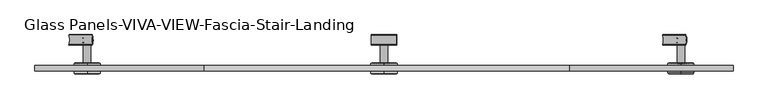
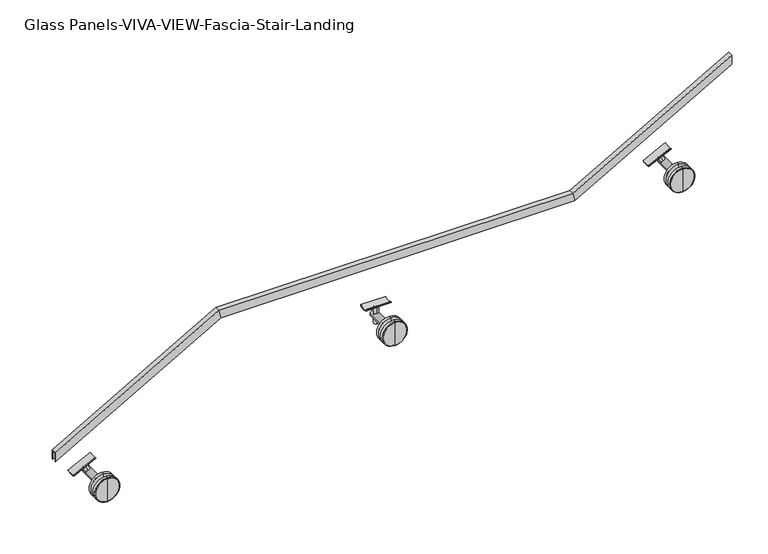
"""IFC4 building model written with IfcOpenShell, lengths in millimetres: railing geometry, Glass Panels-VIVA-VIEW-Fascia-Stair-Landing."""

from ifc_helpers import new_model, si_unit, point, frame, frame_2d, origin, place, context, project, spatial, polyline, circle_curve, trimmed, segment, composite_curve, outline, extrude, faceted_brep, source, transform, mapped, element, save
from ifc_brep_helpers import plane_surface, cylinder_surface, revolved_surface, advanced_brep


def glass_panels_viva_view_fascia_stair_landing_6cf817cf(model_context):
    return source(origin(), model_context, "Body", "SolidModel", [
        faceted_brep([(34673.4016433, -2588.6094585, 2988.1285714), (34673.4016433, -2588.6094585, 2958.8740933), (34673.4016433, -2590.1969585, 2958.8740933), (34673.4016433, -2590.1969585, 2986.3001665), (34673.4016433, -2602.8969585, 2986.3001665), (34673.4016433, -2602.8969585, 2958.8740933), (34673.4016433, -2604.4844585, 2958.8740933), (34673.4016433, -2604.4844585, 2988.1285714), (35165.5266433, -2588.6094585, 3269.3428571), (35172.27198, -2588.6094585, 3243.9428571), (35172.27198, -2590.1969585, 3243.9428571), (35165.9482268, -2590.1969585, 3267.7553571), (35165.9482268, -2602.8969585, 3267.7553571), (35172.27198, -2602.8969585, 3243.9428571), (35172.27198, -2604.4844585, 3243.9428571), (35165.5266433, -2604.4844585, 3269.3428571), (36232.3266433, -2588.6094585, 3269.3428571), (36239.07198, -2588.6094585, 3243.9428571), (36239.07198, -2590.1969585, 3243.9428571), (36232.7482268, -2590.1969585, 3267.7553571), (36232.7482268, -2602.8969585, 3267.7553571), (36239.07198, -2602.8969585, 3243.9428571), (36239.07198, -2604.4844585, 3243.9428571), (36232.3266433, -2604.4844585, 3269.3428571), (36710.9578933, -2588.6094585, 3542.8464286), (36710.9578933, -2604.4844585, 3542.8464286), (36710.9578933, -2604.4844585, 3513.5919505), (36710.9578933, -2602.8969585, 3513.5919505), (36710.9578933, -2602.8969585, 3541.0180237), (36710.9578933, -2590.1969585, 3541.0180237), (36710.9578933, -2590.1969585, 3513.5919505), (36710.9578933, -2588.6094585, 3513.5919505)], [[[0, 1, 2, 3, 4, 5, 6, 7]], [[1, 0, 8, 9]], [[2, 1, 9, 10]], [[3, 2, 10, 11]], [[4, 3, 11, 12]], [[5, 4, 12, 13]], [[6, 5, 13, 14]], [[7, 6, 14, 15]], [[0, 7, 15, 8]], [[9, 8, 16, 17]], [[10, 9, 17, 18]], [[11, 10, 18, 19]], [[12, 11, 19, 20]], [[13, 12, 20, 21]], [[14, 13, 21, 22]], [[15, 14, 22, 23]], [[8, 15, 23, 16]], [[24, 25, 26, 27, 28, 29, 30, 31]], [[17, 16, 24, 31]], [[18, 17, 31, 30]], [[19, 18, 30, 29]], [[20, 19, 29, 28]], [[21, 20, 28, 27]], [[22, 21, 27, 26]], [[23, 22, 26, 25]], [[16, 23, 25, 24]]]),
        extrude(outline(composite_curve([segment(trimmed(circle_curve(frame_2d((35692.1797683, -2514.3270975)), 7.0), [point((35692.1797683, -2507.3270975))], [point((35692.1797683, -2521.3270975))], False, "CARTESIAN"), True, "CONTINUOUS"), segment(trimmed(circle_curve(frame_2d((35692.1797683, -2514.3270975)), 7.0), [point((35692.1797683, -2521.3270975))], [point((35692.1797683, -2507.3270975))], False, "CARTESIAN"), True, "CONTINUOUS")], self_intersect=False)), frame((0.0, 0.0, 2992.4664418), z_axis=(0.0, 0.0, 1.0), x_axis=(1.0, 0.0, 0.0)), (0.0, 0.0, 1.0), 52.8378352),
        extrude(outline(composite_curve([segment(trimmed(circle_curve(frame_2d((18.6575251, 0.3952033)), 19.05), [point((5.2466064, 13.9247916))], [point((5.2466064, -13.1343849))], True, "CARTESIAN"), True, "CONTINUOUS"), segment(polyline([(5.2466064, -13.1343849), (4.2292193, -14.1607745)]), True, "CONTINUOUS"), segment(trimmed(circle_curve(frame_2d((3.1638974, -13.1047967)), 1.5), [point((4.2292193, -14.1607745))], [point((2.0329757, -14.0901981))], False, "CARTESIAN"), True, "CONTINUOUS"), segment(trimmed(circle_curve(frame_2d((18.6575251, 0.3952033)), 22.05), [point((2.0329757, -14.0901981))], [point((2.0329757, 14.8806048))], False, "CARTESIAN"), True, "CONTINUOUS"), segment(trimmed(circle_curve(frame_2d((3.1638974, 13.8952033)), 1.5), [point((2.0329757, 14.8806048))], [point((4.2292193, 14.9511812))], False, "CARTESIAN"), True, "CONTINUOUS"), segment(polyline([(4.2292193, 14.9511812), (5.2466064, 13.9247916)]), True, "CONTINUOUS")], self_intersect=False)), frame((35654.9926572, -2512.5998652, 3048.6249714), z_axis=(0.9999988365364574, 0.0, 0.0015254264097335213), x_axis=(-0.0015254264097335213, 0.0, 0.9999988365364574)), (0.0, 0.0, 1.0), 74.5229187),
        extrude(outline(composite_curve([segment(trimmed(circle_curve(frame_2d((3015.3428571, 35692.1797683)), 11.0132813), [point((3015.3428571, 35703.1930495))], [point((3015.3428571, 35681.166487))], False, "CARTESIAN"), True, "CONTINUOUS"), segment(trimmed(circle_curve(frame_2d((3015.3428571, 35692.1797683)), 11.0132813), [point((3015.3428571, 35681.166487))], [point((3015.3428571, 35703.1930495))], False, "CARTESIAN"), True, "CONTINUOUS")], self_intersect=False)), frame((0.0, -2580.5727397, 0.0), z_axis=(0.0, 1.0, 0.0), x_axis=(0.0, 0.0, 1.0)), (0.0, 0.0, 1.0), 79.2757812),
        advanced_brep(
        [(35692.1797683, -2612.5211772, 3015.3428571), (35692.1797683, -2612.5211772, 3051.4584821), (35692.1797683, -2612.5211772, 2979.2272321), (35692.1797683, -2580.5727397, 2979.2272321), (35692.1797683, -2580.5727397, 3051.4584821), (35692.1797683, -2580.5727397, 3015.3428571), (35692.1797683, -2582.5571147, 2977.2428571), (35692.1797683, -2582.5571147, 3053.4428571), (35692.1797683, -2590.1969585, 2977.2428571), (35692.1797683, -2590.1969585, 3053.4428571), (35692.1797683, -2590.1969585, 3002.6428571), (35692.1797683, -2590.1969585, 3028.0428571), (35692.1797683, -2602.8969585, 3002.6428571), (35692.1797683, -2602.8969585, 3028.0428571), (35692.1797683, -2602.8969585, 2977.2428571), (35692.1797683, -2602.8969585, 3053.4428571), (35692.1797683, -2610.5368022, 2977.2428571), (35692.1797683, -2610.5368022, 3053.4428571)],
        [
            (0, 1),
            (1, 2, circle_curve(frame((35692.1797683, -2612.5211772, 3015.3428571), z_axis=(0.0, -1.0, 0.0), x_axis=(0.0, 0.0, 1.0)), 36.115625)),
            (2, 0),
            (2, 1, circle_curve(frame((35692.1797683, -2612.5211772, 3015.3428571), z_axis=(0.0, -1.0, 0.0), x_axis=(0.0, 0.0, 1.0)), 36.115625)),
            (3, 4, circle_curve(frame((35692.1797683, -2580.5727397, 3015.3428571), z_axis=(0.0, 1.0, 0.0), x_axis=(0.0, 0.0, 1.0)), 36.115625)),
            (4, 5),
            (5, 3),
            (4, 3, circle_curve(frame((35692.1797683, -2580.5727397, 3015.3428571), z_axis=(0.0, 1.0, 0.0), x_axis=(0.0, 0.0, 1.0)), 36.115625)),
            (6, 7, circle_curve(frame((35692.1797683, -2582.5571147, 3015.3428571), z_axis=(0.0, 1.0, 0.0), x_axis=(0.0, 0.0, 1.0)), 38.1)),
            (7, 4),
            (3, 6),
            (7, 6, circle_curve(frame((35692.1797683, -2582.5571147, 3015.3428571), z_axis=(0.0, 1.0, 0.0), x_axis=(0.0, 0.0, 1.0)), 38.1)),
            (8, 9, circle_curve(frame((35692.1797683, -2590.1969585, 3015.3428571), z_axis=(0.0, 1.0, 0.0), x_axis=(0.0, 0.0, 1.0)), 38.1)),
            (9, 7),
            (6, 8),
            (9, 8, circle_curve(frame((35692.1797683, -2590.1969585, 3015.3428571), z_axis=(0.0, 1.0, 0.0), x_axis=(0.0, 0.0, 1.0)), 38.1)),
            (10, 11, circle_curve(frame((35692.1797683, -2590.1969585, 3015.3428571), z_axis=(0.0, 1.0, 0.0), x_axis=(0.0, 0.0, 1.0)), 12.7)),
            (11, 9),
            (8, 10),
            (11, 10, circle_curve(frame((35692.1797683, -2590.1969585, 3015.3428571), z_axis=(0.0, 1.0, 0.0), x_axis=(0.0, 0.0, 1.0)), 12.7)),
            (12, 13, circle_curve(frame((35692.1797683, -2602.8969585, 3015.3428571), z_axis=(0.0, 1.0, 0.0), x_axis=(0.0, 0.0, 1.0)), 12.7)),
            (13, 11),
            (10, 12),
            (13, 12, circle_curve(frame((35692.1797683, -2602.8969585, 3015.3428571), z_axis=(0.0, 1.0, 0.0), x_axis=(0.0, 0.0, 1.0)), 12.7)),
            (14, 15, circle_curve(frame((35692.1797683, -2602.8969585, 3015.3428571), z_axis=(0.0, 1.0, 0.0), x_axis=(0.0, 0.0, 1.0)), 38.1)),
            (15, 13),
            (12, 14),
            (15, 14, circle_curve(frame((35692.1797683, -2602.8969585, 3015.3428571), z_axis=(0.0, 1.0, 0.0), x_axis=(0.0, 0.0, 1.0)), 38.1)),
            (16, 17, circle_curve(frame((35692.1797683, -2610.5368022, 3015.3428571), z_axis=(0.0, 1.0, 0.0), x_axis=(0.0, 0.0, 1.0)), 38.1)),
            (17, 15),
            (14, 16),
            (17, 16, circle_curve(frame((35692.1797683, -2610.5368022, 3015.3428571), z_axis=(0.0, 1.0, 0.0), x_axis=(0.0, 0.0, 1.0)), 38.1)),
            (1, 17),
            (16, 2),
        ],
        [
            plane_surface(frame((35692.1797683, -2612.5211772, 3015.3428571), z_axis=(0.0, -1.0, 0.0), x_axis=(0.0, 0.0, 1.0))),
            plane_surface(frame((35692.1797683, -2580.5727397, 3015.3428571), z_axis=(0.0, 1.0, 0.0), x_axis=(0.0, 0.0, 1.0))),
            revolved_surface(polyline([(35692.1797683, -2580.5727397, 3051.4584821), (35692.1797683, -2582.5571147, 3053.4428571)]), (35692.1797683, -2648.6368022, 3015.3428571), (0.0, -1.0, 0.0)),
            cylinder_surface(frame((35692.1797683, -2648.6368022, 3015.3428571), z_axis=(0.0, -1.0, 0.0), x_axis=(0.0, 0.0, 1.0)), 38.1),
            plane_surface(frame((35692.1797683, -2590.1969585, 3015.3428571), z_axis=(0.0, -1.0, 0.0), x_axis=(0.0, 0.0, 1.0))),
            cylinder_surface(frame((35692.1797683, -2648.6368022, 3015.3428571), z_axis=(0.0, -1.0, 0.0), x_axis=(0.0, 0.0, 1.0)), 12.7),
            plane_surface(frame((35692.1797683, -2602.8969585, 3015.3428571), z_axis=(0.0, 1.0, 0.0), x_axis=(0.0, 0.0, 1.0))),
            revolved_surface(polyline([(35692.1797683, -2610.5368022, 3053.4428571), (35692.1797683, -2612.5211772, 3051.4584821)]), (35692.1797683, -2648.6368022, 3015.3428571), (0.0, -1.0, 0.0)),
        ],
        [
            (0, [[1, 2, 3]]),
            (0, [[-3, 4, -1]]),
            (1, [[5, 6, 7]]),
            (1, [[8, -7, -6]]),
            (2, [[9, 10, -5, 11]]),
            (2, [[12, -11, -8, -10]]),
            (3, [[13, 14, -9, 15]]),
            (3, [[16, -15, -12, -14]]),
            (4, [[17, 18, -13, 19]]),
            (4, [[20, -19, -16, -18]]),
            (5, [[21, 22, -17, 23]]),
            (5, [[24, -23, -20, -22]]),
            (6, [[25, 26, -21, 27]]),
            (6, [[28, -27, -24, -26]]),
            (3, [[29, 30, -25, 31]]),
            (3, [[32, -31, -28, -30]]),
            (7, [[-2, 33, -29, 34]]),
            (7, [[-4, -34, -32, -33]]),
        ],
    ),
        extrude(outline(composite_curve([segment(trimmed(circle_curve(frame_2d((0.0, -7.0)), 7.0), [point((0.0, -14.0))], [point((0.0, 0.0))], False, "CARTESIAN"), True, "CONTINUOUS"), segment(trimmed(circle_curve(frame_2d((0.0, -7.0)), 7.0), [point((0.0, 0.0))], [point((0.0, -14.0))], False, "CARTESIAN"), True, "CONTINUOUS")], self_intersect=False)), frame((36569.978817, -2521.3270975, 3178.8842989), z_axis=(-0.4481147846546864, 0.0, 0.8939760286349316), x_axis=(-0.8939760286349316, 0.0, -0.4481147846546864)), (0.0, 0.0, 1.0), 52.8378352),
        extrude(outline(composite_curve([segment(trimmed(circle_curve(frame_2d((18.6575251, 0.3952033)), 19.05), [point((5.2466063, 13.9247916))], [point((5.2466063, -13.1343849))], True, "CARTESIAN"), True, "CONTINUOUS"), segment(polyline([(5.2466063, -13.1343849), (4.2292193, -14.1607745)]), True, "CONTINUOUS"), segment(trimmed(circle_curve(frame_2d((3.1638975, -13.1047967)), 1.5), [point((4.2292193, -14.1607745))], [point((2.0329757, -14.0901981))], False, "CARTESIAN"), True, "CONTINUOUS"), segment(trimmed(circle_curve(frame_2d((18.6575251, 0.3952033)), 22.05), [point((2.0329757, -14.0901981))], [point((2.0329757, 14.8806048))], False, "CARTESIAN"), True, "CONTINUOUS"), segment(trimmed(circle_curve(frame_2d((3.1638975, 13.8952033)), 1.5), [point((2.0329757, 14.8806048))], [point((4.2292193, 14.9511812))], False, "CARTESIAN"), True, "CONTINUOUS"), segment(polyline([(4.2292193, 14.9511812), (5.2466063, 13.9247916)]), True, "CONTINUOUS")], self_intersect=False)), frame((36507.324839, -2512.5998652, 3210.5094028), z_axis=(0.8953503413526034, 0.0, 0.44536251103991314), x_axis=(-0.44536251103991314, 0.0, 0.8953503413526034)), (0.0, 0.0, 1.0), 74.5229187),
        extrude(outline(composite_curve([segment(trimmed(circle_curve(frame_2d((3201.7607143, 36558.5578933)), 11.0132813), [point((3201.7607143, 36569.5711745))], [point((3201.7607143, 36547.544612))], False, "CARTESIAN"), True, "CONTINUOUS"), segment(trimmed(circle_curve(frame_2d((3201.7607143, 36558.5578933)), 11.0132813), [point((3201.7607143, 36547.544612))], [point((3201.7607143, 36569.5711745))], False, "CARTESIAN"), True, "CONTINUOUS")], self_intersect=False)), frame((0.0, -2580.5727397, 0.0), z_axis=(0.0, 1.0, 0.0), x_axis=(0.0, 0.0, 1.0)), (0.0, 0.0, 1.0), 79.2757812),
        advanced_brep(
        [(36558.5578933, -2612.5211772, 3201.7607143), (36558.5578933, -2612.5211772, 3237.8763393), (36558.5578933, -2612.5211772, 3165.6450893), (36558.5578933, -2580.5727397, 3165.6450893), (36558.5578933, -2580.5727397, 3237.8763393), (36558.5578933, -2580.5727397, 3201.7607143), (36558.5578933, -2582.5571147, 3163.6607143), (36558.5578933, -2582.5571147, 3239.8607143), (36558.5578933, -2590.1969585, 3163.6607143), (36558.5578933, -2590.1969585, 3239.8607143), (36558.5578933, -2590.1969585, 3189.0607143), (36558.5578933, -2590.1969585, 3214.4607143), (36558.5578933, -2602.8969585, 3189.0607143), (36558.5578933, -2602.8969585, 3214.4607143), (36558.5578933, -2602.8969585, 3163.6607143), (36558.5578933, -2602.8969585, 3239.8607143), (36558.5578933, -2610.5368022, 3163.6607143), (36558.5578933, -2610.5368022, 3239.8607143)],
        [
            (0, 1),
            (1, 2, circle_curve(frame((36558.5578933, -2612.5211772, 3201.7607143), z_axis=(0.0, -1.0, 0.0), x_axis=(0.0, 0.0, 1.0)), 36.115625)),
            (2, 0),
            (2, 1, circle_curve(frame((36558.5578933, -2612.5211772, 3201.7607143), z_axis=(0.0, -1.0, 0.0), x_axis=(0.0, 0.0, 1.0)), 36.115625)),
            (3, 4, circle_curve(frame((36558.5578933, -2580.5727397, 3201.7607143), z_axis=(0.0, 1.0, 0.0), x_axis=(0.0, 0.0, 1.0)), 36.115625)),
            (4, 5),
            (5, 3),
            (4, 3, circle_curve(frame((36558.5578933, -2580.5727397, 3201.7607143), z_axis=(0.0, 1.0, 0.0), x_axis=(0.0, 0.0, 1.0)), 36.115625)),
            (6, 7, circle_curve(frame((36558.5578933, -2582.5571147, 3201.7607143), z_axis=(0.0, 1.0, 0.0), x_axis=(0.0, 0.0, 1.0)), 38.1)),
            (7, 4),
            (3, 6),
            (7, 6, circle_curve(frame((36558.5578933, -2582.5571147, 3201.7607143), z_axis=(0.0, 1.0, 0.0), x_axis=(0.0, 0.0, 1.0)), 38.1)),
            (8, 9, circle_curve(frame((36558.5578933, -2590.1969585, 3201.7607143), z_axis=(0.0, 1.0, 0.0), x_axis=(0.0, 0.0, 1.0)), 38.1)),
            (9, 7),
            (6, 8),
            (9, 8, circle_curve(frame((36558.5578933, -2590.1969585, 3201.7607143), z_axis=(0.0, 1.0, 0.0), x_axis=(0.0, 0.0, 1.0)), 38.1)),
            (10, 11, circle_curve(frame((36558.5578933, -2590.1969585, 3201.7607143), z_axis=(0.0, 1.0, 0.0), x_axis=(0.0, 0.0, 1.0)), 12.7)),
            (11, 9),
            (8, 10),
            (11, 10, circle_curve(frame((36558.5578933, -2590.1969585, 3201.7607143), z_axis=(0.0, 1.0, 0.0), x_axis=(0.0, 0.0, 1.0)), 12.7)),
            (12, 13, circle_curve(frame((36558.5578933, -2602.8969585, 3201.7607143), z_axis=(0.0, 1.0, 0.0), x_axis=(0.0, 0.0, 1.0)), 12.7)),
            (13, 11),
            (10, 12),
            (13, 12, circle_curve(frame((36558.5578933, -2602.8969585, 3201.7607143), z_axis=(0.0, 1.0, 0.0), x_axis=(0.0, 0.0, 1.0)), 12.7)),
            (14, 15, circle_curve(frame((36558.5578933, -2602.8969585, 3201.7607143), z_axis=(0.0, 1.0, 0.0), x_axis=(0.0, 0.0, 1.0)), 38.1)),
            (15, 13),
            (12, 14),
            (15, 14, circle_curve(frame((36558.5578933, -2602.8969585, 3201.7607143), z_axis=(0.0, 1.0, 0.0), x_axis=(0.0, 0.0, 1.0)), 38.1)),
            (16, 17, circle_curve(frame((36558.5578933, -2610.5368022, 3201.7607143), z_axis=(0.0, 1.0, 0.0), x_axis=(0.0, 0.0, 1.0)), 38.1)),
            (17, 15),
            (14, 16),
            (17, 16, circle_curve(frame((36558.5578933, -2610.5368022, 3201.7607143), z_axis=(0.0, 1.0, 0.0), x_axis=(0.0, 0.0, 1.0)), 38.1)),
            (1, 17),
            (16, 2),
        ],
        [
            plane_surface(frame((36558.5578933, -2612.5211772, 3201.7607143), z_axis=(0.0, -1.0, 0.0), x_axis=(0.0, 0.0, 1.0))),
            plane_surface(frame((36558.5578933, -2580.5727397, 3201.7607143), z_axis=(0.0, 1.0, 0.0), x_axis=(0.0, 0.0, 1.0))),
            revolved_surface(polyline([(36558.5578933, -2580.5727397, 3237.8763393), (36558.5578933, -2582.5571147, 3239.8607143)]), (36558.5578933, -2648.6368022, 3201.7607143), (0.0, -1.0, 0.0)),
            cylinder_surface(frame((36558.5578933, -2648.6368022, 3201.7607143), z_axis=(0.0, -1.0, 0.0), x_axis=(0.0, 0.0, 1.0)), 38.1),
            plane_surface(frame((36558.5578933, -2590.1969585, 3201.7607143), z_axis=(0.0, -1.0, 0.0), x_axis=(0.0, 0.0, 1.0))),
            cylinder_surface(frame((36558.5578933, -2648.6368022, 3201.7607143), z_axis=(0.0, -1.0, 0.0), x_axis=(0.0, 0.0, 1.0)), 12.7),
            plane_surface(frame((36558.5578933, -2602.8969585, 3201.7607143), z_axis=(0.0, 1.0, 0.0), x_axis=(0.0, 0.0, 1.0))),
            revolved_surface(polyline([(36558.5578933, -2610.5368022, 3239.8607143), (36558.5578933, -2612.5211772, 3237.8763393)]), (36558.5578933, -2648.6368022, 3201.7607143), (0.0, -1.0, 0.0)),
        ],
        [
            (0, [[1, 2, 3]]),
            (0, [[-3, 4, -1]]),
            (1, [[5, 6, 7]]),
            (1, [[8, -7, -6]]),
            (2, [[9, 10, -5, 11]]),
            (2, [[12, -11, -8, -10]]),
            (3, [[13, 14, -9, 15]]),
            (3, [[16, -15, -12, -14]]),
            (4, [[17, 18, -13, 19]]),
            (4, [[20, -19, -16, -18]]),
            (5, [[21, 22, -17, 23]]),
            (5, [[24, -23, -20, -22]]),
            (6, [[25, 26, -21, 27]]),
            (6, [[28, -27, -24, -26]]),
            (3, [[29, 30, -25, 31]]),
            (3, [[32, -31, -28, -30]]),
            (7, [[-2, 33, -29, 34]]),
            (7, [[-4, -34, -32, -33]]),
        ],
    ),
        extrude(outline(composite_curve([segment(trimmed(circle_curve(frame_2d((0.0, -7.0)), 7.0), [point((0.0, -14.0))], [point((0.0, 0.0))], False, "CARTESIAN"), True, "CONTINUOUS"), segment(trimmed(circle_curve(frame_2d((0.0, -7.0)), 7.0), [point((0.0, 0.0))], [point((0.0, -14.0))], False, "CARTESIAN"), True, "CONTINUOUS")], self_intersect=False)), frame((34837.222567, -2521.3270975, 2798.3378704), z_axis=(-0.4481147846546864, 0.0, 0.8939760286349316), x_axis=(-0.8939760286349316, 0.0, -0.4481147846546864)), (0.0, 0.0, 1.0), 52.8378352),
        extrude(outline(composite_curve([segment(trimmed(circle_curve(frame_2d((18.6575251, 0.3952033)), 19.05), [point((5.2466063, 13.9247916))], [point((5.2466063, -13.1343849))], True, "CARTESIAN"), True, "CONTINUOUS"), segment(polyline([(5.2466063, -13.1343849), (4.2292192, -14.1607745)]), True, "CONTINUOUS"), segment(trimmed(circle_curve(frame_2d((3.1638974, -13.1047967)), 1.5), [point((4.2292192, -14.1607745))], [point((2.0329756, -14.0901981))], False, "CARTESIAN"), True, "CONTINUOUS"), segment(trimmed(circle_curve(frame_2d((18.6575251, 0.3952033)), 22.05), [point((2.0329756, -14.0901981))], [point((2.0329756, 14.8806048))], False, "CARTESIAN"), True, "CONTINUOUS"), segment(trimmed(circle_curve(frame_2d((3.1638974, 13.8952033)), 1.5), [point((2.0329756, 14.8806048))], [point((4.2292192, 14.9511812))], False, "CARTESIAN"), True, "CONTINUOUS"), segment(polyline([(4.2292192, 14.9511812), (5.2466063, 13.9247916)]), True, "CONTINUOUS")], self_intersect=False)), frame((34774.568589, -2512.5998652, 2829.9629743), z_axis=(0.8953503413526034, 0.0, 0.44536251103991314), x_axis=(-0.44536251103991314, 0.0, 0.8953503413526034)), (0.0, 0.0, 1.0), 74.5229187),
        extrude(outline(composite_curve([segment(trimmed(circle_curve(frame_2d((2821.2142857, 34825.8016433)), 11.0132813), [point((2821.2142857, 34836.8149245))], [point((2821.2142857, 34814.788362))], False, "CARTESIAN"), True, "CONTINUOUS"), segment(trimmed(circle_curve(frame_2d((2821.2142857, 34825.8016433)), 11.0132813), [point((2821.2142857, 34814.788362))], [point((2821.2142857, 34836.8149245))], False, "CARTESIAN"), True, "CONTINUOUS")], self_intersect=False)), frame((0.0, -2580.5727397, 0.0), z_axis=(0.0, 1.0, 0.0), x_axis=(0.0, 0.0, 1.0)), (0.0, 0.0, 1.0), 79.2757812),
        advanced_brep(
        [(34825.8016433, -2612.5211772, 2821.2142857), (34825.8016433, -2612.5211772, 2857.3299107), (34825.8016433, -2612.5211772, 2785.0986607), (34825.8016433, -2580.5727397, 2785.0986607), (34825.8016433, -2580.5727397, 2857.3299107), (34825.8016433, -2580.5727397, 2821.2142857), (34825.8016433, -2582.5571147, 2783.1142857), (34825.8016433, -2582.5571147, 2859.3142857), (34825.8016433, -2590.1969585, 2783.1142857), (34825.8016433, -2590.1969585, 2859.3142857), (34825.8016433, -2590.1969585, 2808.5142857), (34825.8016433, -2590.1969585, 2833.9142857), (34825.8016433, -2602.8969585, 2808.5142857), (34825.8016433, -2602.8969585, 2833.9142857), (34825.8016433, -2602.8969585, 2783.1142857), (34825.8016433, -2602.8969585, 2859.3142857), (34825.8016433, -2610.5368022, 2783.1142857), (34825.8016433, -2610.5368022, 2859.3142857)],
        [
            (0, 1),
            (1, 2, circle_curve(frame((34825.8016433, -2612.5211772, 2821.2142857), z_axis=(0.0, -1.0, 0.0), x_axis=(0.0, 0.0, 1.0)), 36.115625)),
            (2, 0),
            (2, 1, circle_curve(frame((34825.8016433, -2612.5211772, 2821.2142857), z_axis=(0.0, -1.0, 0.0), x_axis=(0.0, 0.0, 1.0)), 36.115625)),
            (3, 4, circle_curve(frame((34825.8016433, -2580.5727397, 2821.2142857), z_axis=(0.0, 1.0, 0.0), x_axis=(0.0, 0.0, 1.0)), 36.115625)),
            (4, 5),
            (5, 3),
            (4, 3, circle_curve(frame((34825.8016433, -2580.5727397, 2821.2142857), z_axis=(0.0, 1.0, 0.0), x_axis=(0.0, 0.0, 1.0)), 36.115625)),
            (6, 7, circle_curve(frame((34825.8016433, -2582.5571147, 2821.2142857), z_axis=(0.0, 1.0, 0.0), x_axis=(0.0, 0.0, 1.0)), 38.1)),
            (7, 4),
            (3, 6),
            (7, 6, circle_curve(frame((34825.8016433, -2582.5571147, 2821.2142857), z_axis=(0.0, 1.0, 0.0), x_axis=(0.0, 0.0, 1.0)), 38.1)),
            (8, 9, circle_curve(frame((34825.8016433, -2590.1969585, 2821.2142857), z_axis=(0.0, 1.0, 0.0), x_axis=(0.0, 0.0, 1.0)), 38.1)),
            (9, 7),
            (6, 8),
            (9, 8, circle_curve(frame((34825.8016433, -2590.1969585, 2821.2142857), z_axis=(0.0, 1.0, 0.0), x_axis=(0.0, 0.0, 1.0)), 38.1)),
            (10, 11, circle_curve(frame((34825.8016433, -2590.1969585, 2821.2142857), z_axis=(0.0, 1.0, 0.0), x_axis=(0.0, 0.0, 1.0)), 12.7)),
            (11, 9),
            (8, 10),
            (11, 10, circle_curve(frame((34825.8016433, -2590.1969585, 2821.2142857), z_axis=(0.0, 1.0, 0.0), x_axis=(0.0, 0.0, 1.0)), 12.7)),
            (12, 13, circle_curve(frame((34825.8016433, -2602.8969585, 2821.2142857), z_axis=(0.0, 1.0, 0.0), x_axis=(0.0, 0.0, 1.0)), 12.7)),
            (13, 11),
            (10, 12),
            (13, 12, circle_curve(frame((34825.8016433, -2602.8969585, 2821.2142857), z_axis=(0.0, 1.0, 0.0), x_axis=(0.0, 0.0, 1.0)), 12.7)),
            (14, 15, circle_curve(frame((34825.8016433, -2602.8969585, 2821.2142857), z_axis=(0.0, 1.0, 0.0), x_axis=(0.0, 0.0, 1.0)), 38.1)),
            (15, 13),
            (12, 14),
            (15, 14, circle_curve(frame((34825.8016433, -2602.8969585, 2821.2142857), z_axis=(0.0, 1.0, 0.0), x_axis=(0.0, 0.0, 1.0)), 38.1)),
            (16, 17, circle_curve(frame((34825.8016433, -2610.5368022, 2821.2142857), z_axis=(0.0, 1.0, 0.0), x_axis=(0.0, 0.0, 1.0)), 38.1)),
            (17, 15),
            (14, 16),
            (17, 16, circle_curve(frame((34825.8016433, -2610.5368022, 2821.2142857), z_axis=(0.0, 1.0, 0.0), x_axis=(0.0, 0.0, 1.0)), 38.1)),
            (1, 17),
            (16, 2),
        ],
        [
            plane_surface(frame((34825.8016433, -2612.5211772, 2821.2142857), z_axis=(0.0, -1.0, 0.0), x_axis=(0.0, 0.0, 1.0))),
            plane_surface(frame((34825.8016433, -2580.5727397, 2821.2142857), z_axis=(0.0, 1.0, 0.0), x_axis=(0.0, 0.0, 1.0))),
            revolved_surface(polyline([(34825.8016433, -2580.5727397, 2857.3299107), (34825.8016433, -2582.5571147, 2859.3142857)]), (34825.8016433, -2648.6368022, 2821.2142857), (0.0, -1.0, 0.0)),
            cylinder_surface(frame((34825.8016433, -2648.6368022, 2821.2142857), z_axis=(0.0, -1.0, 0.0), x_axis=(0.0, 0.0, 1.0)), 38.1),
            plane_surface(frame((34825.8016433, -2590.1969585, 2821.2142857), z_axis=(0.0, -1.0, 0.0), x_axis=(0.0, 0.0, 1.0))),
            cylinder_surface(frame((34825.8016433, -2648.6368022, 2821.2142857), z_axis=(0.0, -1.0, 0.0), x_axis=(0.0, 0.0, 1.0)), 12.7),
            plane_surface(frame((34825.8016433, -2602.8969585, 2821.2142857), z_axis=(0.0, 1.0, 0.0), x_axis=(0.0, 0.0, 1.0))),
            revolved_surface(polyline([(34825.8016433, -2610.5368022, 2859.3142857), (34825.8016433, -2612.5211772, 2857.3299107)]), (34825.8016433, -2648.6368022, 2821.2142857), (0.0, -1.0, 0.0)),
        ],
        [
            (0, [[1, 2, 3]]),
            (0, [[-3, 4, -1]]),
            (1, [[5, 6, 7]]),
            (1, [[8, -7, -6]]),
            (2, [[9, 10, -5, 11]]),
            (2, [[12, -11, -8, -10]]),
            (3, [[13, 14, -9, 15]]),
            (3, [[16, -15, -12, -14]]),
            (4, [[17, 18, -13, 19]]),
            (4, [[20, -19, -16, -18]]),
            (5, [[21, 22, -17, 23]]),
            (5, [[24, -23, -20, -22]]),
            (6, [[25, 26, -21, 27]]),
            (6, [[28, -27, -24, -26]]),
            (3, [[29, 30, -25, 31]]),
            (3, [[32, -31, -28, -30]]),
            (7, [[-2, 33, -29, 34]]),
            (7, [[-4, -34, -32, -33]]),
        ],
    ),
    ])


if __name__ == "__main__":
    model = new_model("IFC4")
    model_context = context("Model", 3, world=origin())
    ifc_project = project(units=[si_unit("LENGTHUNIT", "METRE", prefix="MILLI")], contexts=[model_context])
    site = spatial("IfcSite", under=ifc_project)
    building = spatial("IfcBuilding", under=site)
    placement = place(None, origin())
    glass_panels_viva_view_fascia_stair_landing_shape = glass_panels_viva_view_fascia_stair_landing_6cf817cf(model_context)
    element("IfcRailing", 1, ObjectType="Glass Panels-VIVA-VIEW-Fascia-Stair-Landing", at=placement, inside=building, context=model_context, shape_type="MappedRepresentation", body=[
        mapped(glass_panels_viva_view_fascia_stair_landing_shape, transform((0.0, 0.0, 0.0), x_axis=(1.0, 0.0, 0.0), y_axis=(0.0, 1.0, 0.0), z_axis=(0.0, 0.0, 1.0))),
    ])
    save(model, "model.ifc")
